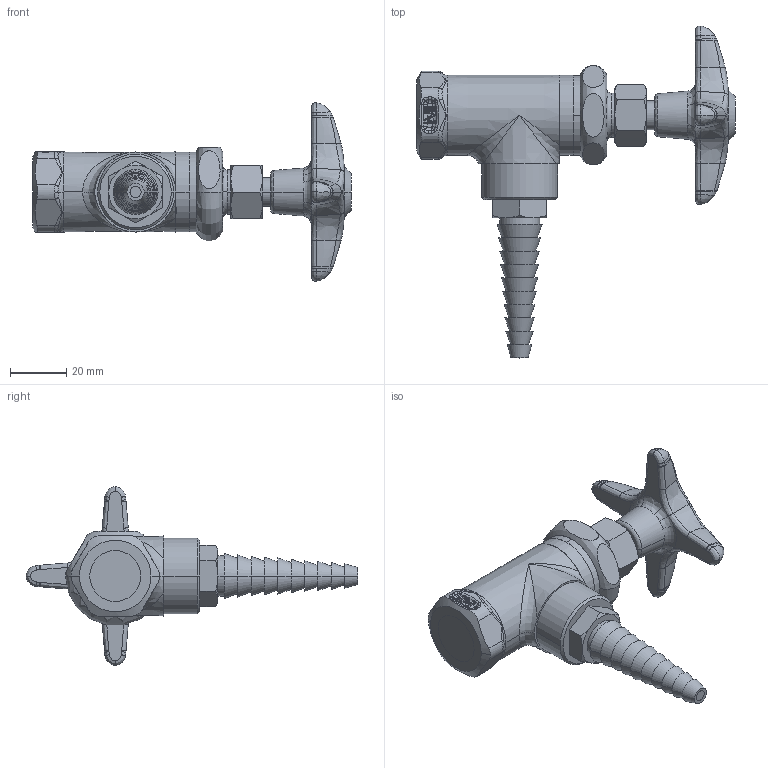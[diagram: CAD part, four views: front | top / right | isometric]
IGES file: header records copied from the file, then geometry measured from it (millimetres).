
Start section:  PTC IGES file: LGN3-A11H.igs
Global section: file name: LGN3-A11H.igs; native system: Creo Parametric by PTC Inc.; preprocessor: 2014500; author: usch_engrender; organization: Unknown; date: 20151217.171927; units: inch
Bounding box: 113.26 x 117.97 x 63.42 mm (x, y, z)
Volume: 55903 mm3; surface area: 27287.9 mm2
Topology: 1 solids, 4 shells, 572 faces, 1295 edges, 755 vertices
Faces by surface type: bspline 325, revolution 247
